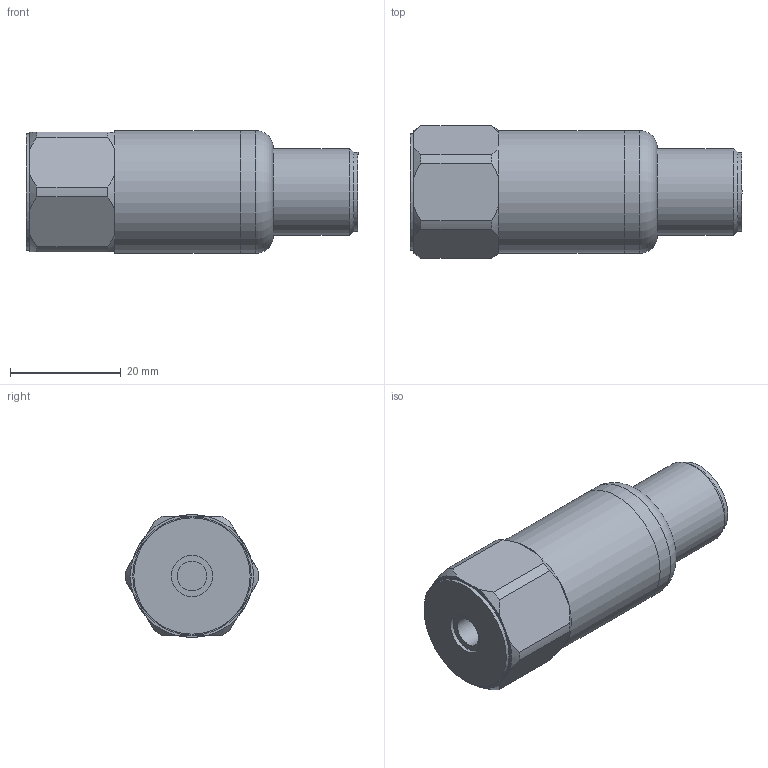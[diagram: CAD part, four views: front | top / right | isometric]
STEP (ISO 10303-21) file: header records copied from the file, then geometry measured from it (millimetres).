
FILE_DESCRIPTION(/* description */ (''),/* implementation_level */ '2;1');
FILE_NAME(/* name */ 'Z:\Engineering\Drawings\3D Library\Assemblies\Website\Premium Top\HS-150 Top 2 Pin MS\HS-150XXX5001.stp',/* time_stamp */ '2023-03-12T11:00:21+00:00',/* author */ ('Ricardo.Peneda'),/* organization */ (''),/* preprocessor_version */ 'ST-DEVELOPER v18.1',/* originating_system */ 'Autodesk Inventor 2021',/* authorisation */ '');
FILE_SCHEMA (('AUTOMOTIVE_DESIGN { 1 0 10303 214 3 1 1 }'));
Length unit declared in the file: inch
Products named in the file (1): HS-150XXX5001_Shrinkwrap_1
Bounding box: 59.97 x 23.99 x 22.2 mm (x, y, z)
Volume: 14005 mm3; surface area: 7293.6 mm2
Topology: 2 solids, 2 shells, 51 faces, 136 edges, 96 vertices
Faces by surface type: plane 23, cylinder 17, cone 10, torus 1
Full cylindrical faces by diameter (mm): 5.359 x1, 7.5 x1, 11.37 x1, 14.28 x1, 15.055 x1, 15.7 x1, 19 x1, 20 x1, 21 x1, 22.2 x2
Entity records: 1714 total; most frequent: CARTESIAN_POINT 331, DIRECTION 287, ORIENTED_EDGE 270, EDGE_CURVE 135, AXIS2_PLACEMENT_3D 124, VERTEX_POINT 96, CIRCLE 72, EDGE_LOOP 59
